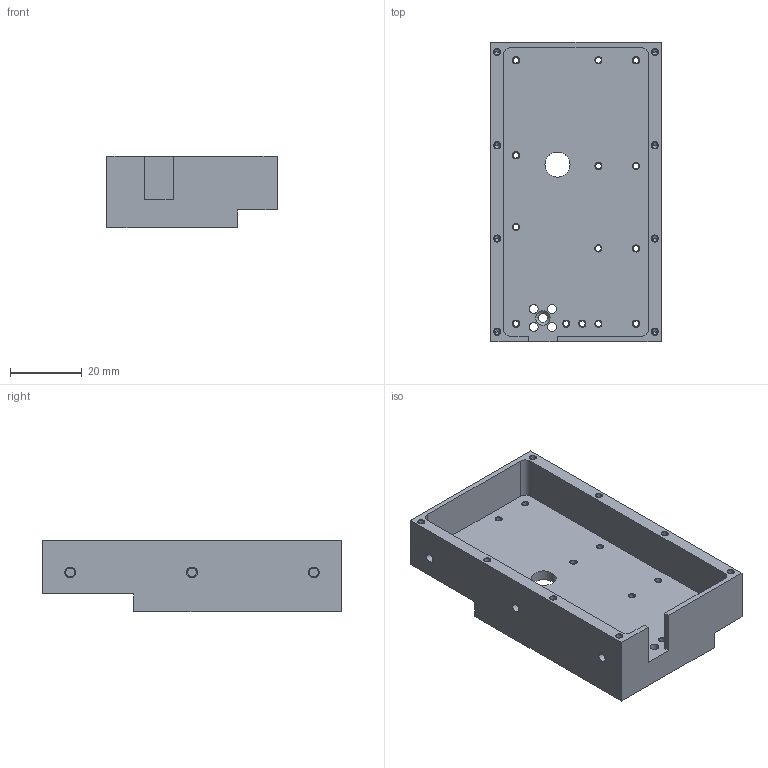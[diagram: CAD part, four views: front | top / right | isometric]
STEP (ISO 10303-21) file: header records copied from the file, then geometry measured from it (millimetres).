
FILE_DESCRIPTION((''),'2;1');
FILE_NAME('QPSK_CASING_VER2','2020-03-13T',('g0715'),(''),'PRO/ENGINEER BY PARAMETRIC TECHNOLOGY CORPORATION, 2014090','PRO/ENGINEER BY PARAMETRIC TECHNOLOGY CORPORATION, 2014090','');
FILE_SCHEMA(('CONFIG_CONTROL_DESIGN'));
Length unit declared in the file: millimetre
Products named in the file (1): QPSK_CASING_VER2
Bounding box: 47.5 x 83.5 x 20 mm (x, y, z)
Volume: 22038.1 mm3; surface area: 17498 mm2
Topology: 1 solids, 34 shells, 221 faces, 607 edges, 388 vertices
Faces by surface type: cylinder 150, plane 37, cone 34
Entity records: 7015 total; most frequent: DIRECTION 1353, CARTESIAN_POINT 1185, ORIENTED_EDGE 1018, EDGE_CURVE 575, AXIS2_PLACEMENT_3D 556, VERTEX_POINT 388, CIRCLE 334, EDGE_LOOP 299
